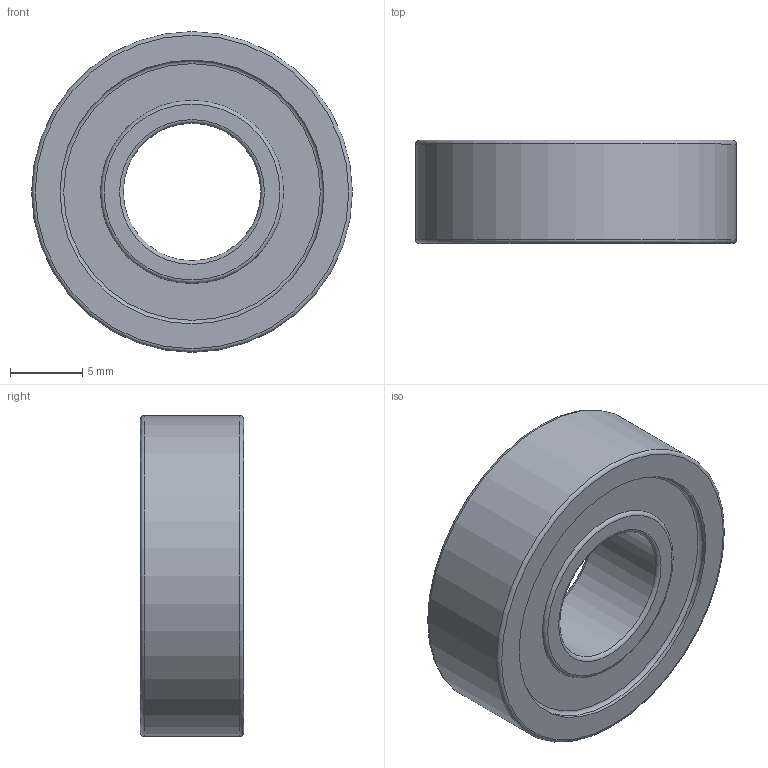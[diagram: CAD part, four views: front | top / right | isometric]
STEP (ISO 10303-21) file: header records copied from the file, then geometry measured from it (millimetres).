
FILE_DESCRIPTION(/* description */ (''),/* implementation_level */ '2;1');
FILE_NAME(/* name */ 'Bearing R6ZZ .step',/* time_stamp */ '2022-12-29T16:23:27-08:00',/* author */ (''),/* organization */ (''),/* preprocessor_version */ 'ST-DEVELOPER v19.2',/* originating_system */ 'Autodesk Translation Framework v11.17.0.187',/* authorisation */ '');
FILE_SCHEMA (('AUTOMOTIVE_DESIGN { 1 0 10303 214 3 1 1 }'));
Length unit declared in the file: inch
Products named in the file (1): Bearing R6ZZ
Bounding box: 22.23 x 7.14 x 22.23 mm (x, y, z)
Volume: 2093.8 mm3; surface area: 1366.3 mm2
Topology: 1 solids, 1 shells, 18 faces, 33 edges, 21 vertices
Faces by surface type: torus 8, plane 6, cylinder 4
Full cylindrical faces by diameter (mm): 9.525 x1, 18.288 x2, 22.225 x1
Entity records: 508 total; most frequent: DIRECTION 100, CARTESIAN_POINT 73, ORIENTED_EDGE 66, AXIS2_PLACEMENT_3D 48, EDGE_CURVE 33, CIRCLE 29, EDGE_LOOP 24, VERTEX_POINT 21
